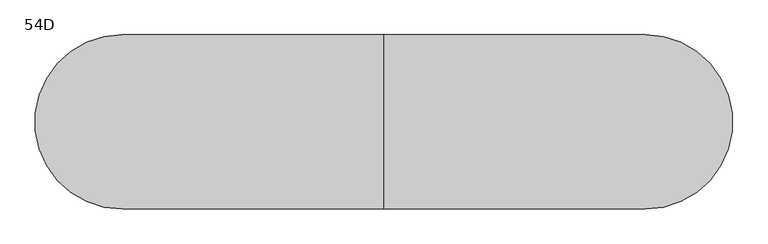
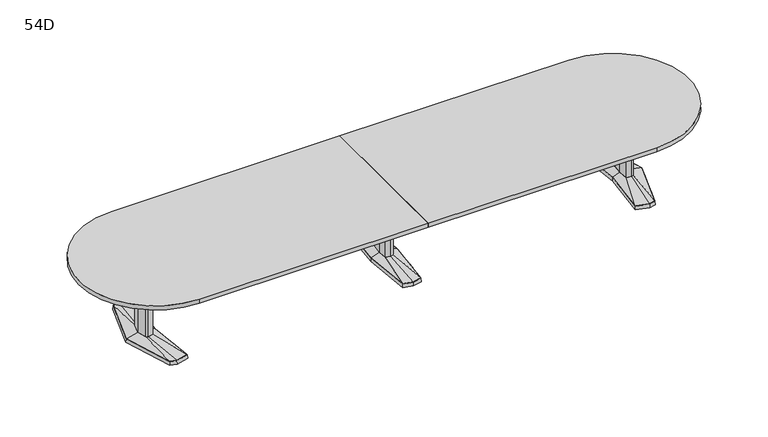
"""IFC4 building model written with IfcOpenShell, lengths in millimetres: furniture geometry, Coalesse_AM_Table_Conference_ETable2_Racetrack_18ft_AluminiumBase : 54D."""

from ifc_helpers import new_model, si_unit, point, frame, frame_2d, origin, place, context, project, spatial, polyline, circle_curve, trimmed, segment, composite_curve, outline, extrude, faceted_brep, source, transform, mapped, element, save
from ifc_brep_helpers import plane_surface, spline_surface, advanced_brep


def furniture_54d_7f392c79(model_context):
    return source(origin(), model_context, "Body", "SolidModel", [
        faceted_brep([(-81.2333791, -433.8053819, 38.1), (0.0, -455.556576, 38.1), (81.2333791, -433.8053819, 38.1), (119.0564774, 0.0, 38.1), (81.2333791, 433.8053819, 38.1), (0.0, 455.556576, 38.1), (-81.2333791, 433.8053819, 38.1), (-119.0564774, 0.0, 38.1), (-82.7182795, -435.0512063, 3.175), (-120.65, 0.0, 3.175), (-82.7182795, 435.0512063, 3.175), (0.0, 457.2, 3.175), (82.7182795, 435.0512063, 3.175), (120.65, 0.0, 3.175), (82.7182795, -435.0512063, 3.175), (0.0, -457.2, 3.175), (0.0, 429.2617927, 3.175), (-77.9676806, 408.3850278, 3.175), (-74.7019821, 382.9646737, 3.175), (0.0, 402.9670094, 3.175), (74.7019821, 382.9646737, 3.175), (77.9676806, 408.3850278, 3.175), (0.0, -429.2617927, 3.175), (77.9676806, -408.3850278, 3.175), (74.7019821, -382.9646737, 3.175), (0.0, -402.9670094, 3.175), (-74.7019821, -382.9646737, 3.175), (-77.9676806, -408.3850278, 3.175), (-71.8574262, 114.6326257, 3.175), (-82.5426076, 0.0, 3.175), (-71.8574262, -114.6326257, 3.175), (0.0, -133.8761372, 3.175), (71.8574262, -114.6326257, 3.175), (82.5426076, 0.0, 3.175), (71.8574262, 114.6326257, 3.175), (0.0, 133.8761372, 3.175), (0.0, 429.2617927, 0.0), (77.9676806, 408.3850278, 0.0), (74.7019821, 382.9646737, 0.0), (0.0, 402.9670094, 0.0), (-74.7019821, 382.9646737, 0.0), (-77.9676806, 408.3850278, 0.0), (0.0, -429.2617927, 0.0), (-77.9676806, -408.3850278, 0.0), (-74.7019821, -382.9646737, 0.0), (0.0, -402.9670094, 0.0), (74.7019821, -382.9646737, 0.0), (77.9676806, -408.3850278, 0.0), (-71.8574262, 114.6326257, 0.0), (0.0, 133.8761372, 0.0), (71.8574262, 114.6326257, 0.0), (82.5426076, 0.0, 0.0), (71.8574262, -114.6326257, 0.0), (0.0, -133.8761372, 0.0), (-71.8574262, -114.6326257, 0.0), (-82.5426076, 0.0, 0.0)], [[[0, 1, 2, 3, 4, 5, 6, 7]], [[8, 9, 10, 11, 12, 13, 14, 15], [16, 17, 18, 19, 20, 21], [22, 23, 24, 25, 26, 27], [28, 29, 30, 31, 32, 33, 34, 35]], [[1, 0, 8, 15]], [[2, 1, 15, 14]], [[3, 2, 14, 13]], [[4, 3, 13, 12]], [[5, 4, 12, 11]], [[6, 5, 11, 10]], [[7, 6, 10, 9]], [[0, 7, 9, 8]], [[36, 37, 38, 39, 40, 41]], [[42, 43, 44, 45, 46, 47]], [[48, 49, 50, 51, 52, 53, 54, 55]], [[36, 41, 17, 16]], [[41, 40, 18, 17]], [[40, 39, 19, 18]], [[39, 38, 20, 19]], [[38, 37, 21, 20]], [[37, 36, 16, 21]], [[42, 47, 23, 22]], [[47, 46, 24, 23]], [[46, 45, 25, 24]], [[45, 44, 26, 25]], [[44, 43, 27, 26]], [[43, 42, 22, 27]], [[48, 55, 29, 28]], [[55, 54, 30, 29]], [[54, 53, 31, 30]], [[53, 52, 32, 31]], [[52, 51, 33, 32]], [[51, 50, 34, 33]], [[50, 49, 35, 34]], [[49, 48, 28, 35]]]),
        faceted_brep([(-36.3832834, 84.6900825, 698.5), (-44.2774487, 0.0, 698.5), (-36.3832834, -84.6900825, 698.5), (0.0, -94.4335728, 698.5), (36.3832834, -84.6900825, 698.5), (44.2774487, 0.0, 698.5), (36.3832834, 84.6900825, 698.5), (0.0, 94.4335728, 698.5), (-36.3832834, 84.6900825, 63.5), (0.0, 94.4335728, 63.5), (36.3832834, 84.6900825, 63.5), (44.2774487, 0.0, 63.5), (36.3832834, -84.6900825, 63.5), (0.0, -94.4335728, 63.5), (-36.3832834, -84.6900825, 63.5), (-44.2774487, 0.0, 63.5)], [[[0, 1, 2, 3, 4, 5, 6, 7]], [[8, 9, 10, 11, 12, 13, 14, 15]], [[1, 0, 8, 15]], [[2, 1, 15, 14]], [[3, 2, 14, 13]], [[4, 3, 13, 12]], [[5, 4, 12, 11]], [[6, 5, 11, 10]], [[7, 6, 10, 9]], [[0, 7, 9, 8]]]),
        advanced_brep(
        [(-36.3832834, 84.6900825, 63.5), (-44.2774487, 0.0, 63.5), (-36.3832834, -84.6900825, 63.5), (0.0, -94.4335728, 63.5), (36.3832834, -84.6900825, 63.5), (44.2774487, 0.0, 63.5), (36.3832834, 84.6900825, 63.5), (0.0, 94.4335728, 63.5), (-81.2333791, 433.8053819, 38.1), (0.0, 455.556576, 38.1), (81.2333791, 433.8053819, 38.1), (119.0564774, 0.0, 38.1), (81.2333791, -433.8053819, 38.1), (0.0, -455.556576, 38.1), (-81.2333791, -433.8053819, 38.1), (-119.0564774, 0.0, 38.1)],
        [
            (0, 1),
            (1, 2),
            (2, 3),
            (3, 4),
            (4, 5),
            (5, 6),
            (6, 7),
            (7, 0),
            (8, 9),
            (9, 10),
            (10, 11),
            (11, 12),
            (12, 13),
            (13, 14),
            (14, 15),
            (15, 8),
            (15, 1),
            (0, 8),
            (14, 2),
            (13, 3),
            (12, 4),
            (11, 5),
            (10, 6),
            (9, 7),
        ],
        [
            plane_surface(frame((0.0, 0.0, 63.5), z_axis=(0.0, 0.0, 1.0000000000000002), x_axis=(-0.9659615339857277, -0.25868574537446, 0.0))),
            plane_surface(frame((0.0, 0.0, 38.1), z_axis=(0.0, 0.0, -1.0000000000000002), x_axis=(-0.9659615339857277, -0.25868574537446, 0.0))),
            spline_surface(1, 1, [[(-81.2333791, 433.8053819, 38.1), (-36.3832834, 84.6900825, 63.5)], [(-119.0564774, 0.0, 38.1), (-44.2774487, 0.0, 63.5)]], [2, 2], [2, 2], [0.0, 1.0], [0.0, 1.0]),
            spline_surface(1, 1, [[(-119.0564774, 0.0, 38.1), (-44.2774487, 0.0, 63.5)], [(-81.2333791, -433.8053819, 38.1), (-36.3832834, -84.6900825, 63.5)]], [2, 2], [2, 2], [0.0, 1.0], [0.0, 1.0]),
            spline_surface(1, 1, [[(-81.2333791, -433.8053819, 38.1), (-36.3832834, -84.6900825, 63.5)], [(0.0, -455.556576, 38.1), (0.0, -94.4335728, 63.5)]], [2, 2], [2, 2], [0.0, 1.0], [0.0, 1.0]),
            spline_surface(1, 1, [[(0.0, -455.556576, 38.1), (0.0, -94.4335728, 63.5)], [(81.2333791, -433.8053819, 38.1), (36.3832834, -84.6900825, 63.5)]], [2, 2], [2, 2], [0.0, 1.0], [0.0, 1.0]),
            spline_surface(1, 1, [[(81.2333791, -433.8053819, 38.1), (36.3832834, -84.6900825, 63.5)], [(119.0564774, 0.0, 38.1), (44.2774487, 0.0, 63.5)]], [2, 2], [2, 2], [0.0, 1.0], [0.0, 1.0]),
            spline_surface(1, 1, [[(119.0564774, 0.0, 38.1), (44.2774487, 0.0, 63.5)], [(81.2333791, 433.8053819, 38.1), (36.3832834, 84.6900825, 63.5)]], [2, 2], [2, 2], [0.0, 1.0], [0.0, 1.0]),
            spline_surface(1, 1, [[(81.2333791, 433.8053819, 38.1), (36.3832834, 84.6900825, 63.5)], [(0.0, 455.556576, 38.1), (0.0, 94.4335728, 63.5)]], [2, 2], [2, 2], [0.0, 1.0], [0.0, 1.0]),
            spline_surface(1, 1, [[(0.0, 455.556576, 38.1), (0.0, 94.4335728, 63.5)], [(-81.2333791, 433.8053819, 38.1), (-36.3832834, 84.6900825, 63.5)]], [2, 2], [2, 2], [0.0, 1.0], [0.0, 1.0]),
        ],
        [
            (0, [[1, 2, 3, 4, 5, 6, 7, 8]]),
            (1, [[9, 10, 11, 12, 13, 14, 15, 16]]),
            (2, [[-16, 17, -1, 18]]),
            (3, [[-15, 19, -2, -17]]),
            (4, [[-14, 20, -3, -19]]),
            (5, [[-13, 21, -4, -20]]),
            (6, [[-12, 22, -5, -21]]),
            (7, [[-11, 23, -6, -22]]),
            (8, [[-10, 24, -7, -23]]),
            (9, [[-9, -18, -8, -24]]),
        ],
    ),
        faceted_brep([(2125.0306835, 455.5848221, 38.1), (2015.4531277, 426.2263816, 38.1), (2056.6163717, 0.0, 38.1), (2015.4531277, -426.2263816, 38.1), (2125.0306835, -455.5848221, 38.1), (2181.1570396, -440.5478297, 38.1), (2318.4684269, 0.0, 38.1), (2181.1570396, 440.5478297, 38.1), (2125.0306754, 457.2283104, 3.175), (2182.4124472, 441.8549756, 3.175), (2320.13125, 0.0, 3.175), (2182.4124472, -441.8549756, 3.175), (2125.0306754, -457.2283104, 3.175), (2013.74375, -427.4118891, 3.175), (2055.0214856, 0.0, 3.175), (2013.74375, 427.4118891, 3.175), (2128.620115, 428.3273875, 3.175), (2023.5718228, 402.1057253, 3.175), (2031.690518, 377.985069, 3.175), (2132.2095466, 401.0699529, 3.175), (2182.7691725, 387.524361, 3.175), (2181.9631061, 414.0360954, 3.175), (2128.620115, -428.3273875, 3.175), (2181.9631061, -414.0360954, 3.175), (2182.7691725, -387.524361, 3.175), (2132.2095466, -401.0699529, 3.175), (2031.690518, -377.985069, 3.175), (2023.5718228, -402.1057253, 3.175), (2255.2153621, 0.0, 3.175), (2222.9459611, 120.4193755, 3.175), (2174.2987222, 133.471665, 3.175), (2094.4180526, 119.4176561, 3.175), (2083.2868466, 0.0, 3.175), (2094.4180526, -119.4176561, 3.175), (2174.2987222, -133.471665, 3.175), (2222.9459611, -120.4193755, 3.175), (2128.620115, 428.3273875, 0.0), (2181.9631061, 414.0360954, 0.0), (2182.7691725, 387.524361, 0.0), (2132.2095466, 401.0699529, 0.0), (2031.690518, 377.985069, 0.0), (2023.5718228, 402.1057253, 0.0), (2128.620115, -428.3273875, 0.0), (2023.5718228, -402.1057253, 0.0), (2031.690518, -377.985069, 0.0), (2132.2095466, -401.0699529, 0.0), (2182.7691725, -387.524361, 0.0), (2181.9631061, -414.0360954, 0.0), (2255.2153621, 0.0, 0.0), (2222.9459611, -120.4193755, 0.0), (2174.2987222, -133.471665, 0.0), (2094.4180526, -119.4176561, 0.0), (2083.2868466, 0.0, 0.0), (2094.4180526, 119.4176561, 0.0), (2174.2987222, 133.471665, 0.0), (2222.9459611, 120.4193755, 0.0)], [[[0, 1, 2, 3, 4, 5, 6, 7]], [[8, 9, 10, 11, 12, 13, 14, 15], [16, 17, 18, 19, 20, 21], [22, 23, 24, 25, 26, 27], [28, 29, 30, 31, 32, 33, 34, 35]], [[7, 9, 8, 0]], [[6, 10, 9, 7]], [[5, 11, 10, 6]], [[4, 12, 11, 5]], [[3, 13, 12, 4]], [[2, 14, 13, 3]], [[1, 15, 14, 2]], [[0, 8, 15, 1]], [[36, 37, 38, 39, 40, 41]], [[42, 43, 44, 45, 46, 47]], [[48, 49, 50, 51, 52, 53, 54, 55]], [[36, 16, 21, 37]], [[37, 21, 20, 38]], [[38, 20, 19, 39]], [[39, 19, 18, 40]], [[40, 18, 17, 41]], [[41, 17, 16, 36]], [[42, 22, 27, 43]], [[43, 27, 26, 44]], [[44, 26, 25, 45]], [[45, 25, 24, 46]], [[46, 24, 23, 47]], [[47, 23, 22, 42]], [[48, 28, 35, 49]], [[49, 35, 34, 50]], [[50, 34, 33, 51]], [[51, 33, 32, 52]], [[52, 32, 31, 53]], [[53, 31, 30, 54]], [[54, 30, 29, 55]], [[55, 29, 28, 48]]]),
        faceted_brep([(2215.7710836, 0.0, 698.5), (2191.8358546, 89.3188359, 698.5), (2174.9824984, 93.8406728, 698.5), (2172.5826511, 94.4845635, 698.5), (2129.655146, 86.9320037, 698.5), (2121.5520056, 0.0, 698.5), (2129.655146, -86.9320037, 698.5), (2172.5826511, -94.4845635, 698.5), (2174.9824984, -93.8406728, 698.5), (2191.8358546, -89.3188359, 698.5), (2215.7710836, 0.0, 63.5), (2191.8358546, -89.3188359, 63.5), (2174.9824984, -93.8406728, 63.5), (2172.5826511, -94.4845635, 63.5), (2129.655146, -86.9320037, 63.5), (2121.5520056, 0.0, 63.5), (2129.655146, 86.9320037, 63.5), (2172.5826511, 94.4845635, 63.5), (2174.9824984, 93.8406728, 63.5), (2191.8358546, 89.3188359, 63.5)], [[[0, 1, 2, 3, 4, 5, 6, 7, 8, 9]], [[10, 11, 12, 13, 14, 15, 16, 17, 18, 19]], [[9, 11, 10, 0]], [[8, 12, 11, 9]], [[7, 13, 12, 8]], [[6, 14, 13, 7]], [[5, 15, 14, 6]], [[4, 16, 15, 5]], [[3, 17, 16, 4]], [[2, 18, 17, 3]], [[1, 19, 18, 2]], [[0, 10, 19, 1]]]),
        advanced_brep(
        [(2172.5826511, 94.4845635, 63.5), (2129.655146, 86.9320037, 63.5), (2121.5520056, 0.0, 63.5), (2129.655146, -86.9320037, 63.5), (2172.5826511, -94.4845635, 63.5), (2191.8358546, -89.3188359, 63.5), (2215.7710836, 0.0, 63.5), (2191.8358546, 89.3188359, 63.5), (2125.0306835, 455.5848221, 38.1), (2181.1570396, 440.5478297, 38.1), (2318.4684269, 0.0, 38.1), (2181.1570396, -440.5478297, 38.1), (2125.0306835, -455.5848221, 38.1), (2015.4531277, -426.2263816, 38.1), (2056.6163717, 0.0, 38.1), (2015.4531277, 426.2263816, 38.1)],
        [
            (0, 1),
            (1, 2),
            (2, 3),
            (3, 4),
            (4, 5),
            (5, 6),
            (6, 7),
            (7, 0),
            (8, 9),
            (9, 10),
            (10, 11),
            (11, 12),
            (12, 13),
            (13, 14),
            (14, 15),
            (15, 8),
            (8, 0),
            (7, 9),
            (6, 10),
            (5, 11),
            (4, 12),
            (3, 13),
            (2, 14),
            (1, 15),
        ],
        [
            plane_surface(frame((2165.6837991, 0.0, 63.5), z_axis=(0.0, 0.0, 1.0), x_axis=(-0.25884244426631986, -0.9659195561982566, 0.0))),
            plane_surface(frame((2127.2958125, 0.0, 38.1), z_axis=(0.0, 0.0, -1.0), x_axis=(-0.25884244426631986, -0.9659195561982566, 0.0))),
            spline_surface(1, 1, [[(2125.0306835, 455.5848221, 38.1), (2181.1570396, 440.5478297, 38.1)], [(2172.5826511, 94.4845635, 63.5), (2191.8358546, 89.3188359, 63.5)]], [2, 2], [2, 2], [0.0, 1.0], [0.0, 1.0]),
            spline_surface(1, 1, [[(2181.1570396, 440.5478297, 38.1), (2318.4684269, 0.0, 38.1)], [(2191.8358546, 89.3188359, 63.5), (2215.7710836, 0.0, 63.5)]], [2, 2], [2, 2], [0.0, 1.0], [0.0, 1.0]),
            spline_surface(1, 1, [[(2318.4684269, 0.0, 38.1), (2181.1570396, -440.5478297, 38.1)], [(2215.7710836, 0.0, 63.5), (2191.8358546, -89.3188359, 63.5)]], [2, 2], [2, 2], [0.0, 1.0], [0.0, 1.0]),
            spline_surface(1, 1, [[(2181.1570396, -440.5478297, 38.1), (2125.0306835, -455.5848221, 38.1)], [(2191.8358546, -89.3188359, 63.5), (2172.5826511, -94.4845635, 63.5)]], [2, 2], [2, 2], [0.0, 1.0], [0.0, 1.0]),
            spline_surface(1, 1, [[(2125.0306835, -455.5848221, 38.1), (2015.4531277, -426.2263816, 38.1)], [(2172.5826511, -94.4845635, 63.5), (2129.655146, -86.9320037, 63.5)]], [2, 2], [2, 2], [0.0, 1.0], [0.0, 1.0]),
            spline_surface(1, 1, [[(2015.4531277, -426.2263816, 38.1), (2056.6163717, 0.0, 38.1)], [(2129.655146, -86.9320037, 63.5), (2121.5520056, 0.0, 63.5)]], [2, 2], [2, 2], [0.0, 1.0], [0.0, 1.0]),
            spline_surface(1, 1, [[(2056.6163717, 0.0, 38.1), (2015.4531277, 426.2263816, 38.1)], [(2121.5520056, 0.0, 63.5), (2129.655146, 86.9320037, 63.5)]], [2, 2], [2, 2], [0.0, 1.0], [0.0, 1.0]),
            spline_surface(1, 1, [[(2015.4531277, 426.2263816, 38.1), (2125.0306835, 455.5848221, 38.1)], [(2129.655146, 86.9320037, 63.5), (2172.5826511, 94.4845635, 63.5)]], [2, 2], [2, 2], [0.0, 1.0], [0.0, 1.0]),
        ],
        [
            (0, [[1, 2, 3, 4, 5, 6, 7, 8]]),
            (1, [[9, 10, 11, 12, 13, 14, 15, 16]]),
            (2, [[17, -8, 18, -9]]),
            (3, [[-18, -7, 19, -10]]),
            (4, [[-19, -6, 20, -11]]),
            (5, [[-20, -5, 21, -12]]),
            (6, [[-21, -4, 22, -13]]),
            (7, [[-22, -3, 23, -14]]),
            (8, [[-23, -2, 24, -15]]),
            (9, [[-24, -1, -17, -16]]),
        ],
    ),
        faceted_brep([(-2125.0306835, 455.5848221, 38.1), (-2181.1570396, 440.5478297, 38.1), (-2318.4684269, 0.0, 38.1), (-2181.1570396, -440.5478297, 38.1), (-2125.0306835, -455.5848221, 38.1), (-2015.4531277, -426.2263816, 38.1), (-2056.6163717, 0.0, 38.1), (-2015.4531277, 426.2263816, 38.1), (-2125.0306754, 457.2283104, 3.175), (-2013.74375, 427.4118891, 3.175), (-2055.0214856, 0.0, 3.175), (-2013.74375, -427.4118891, 3.175), (-2125.0306754, -457.2283104, 3.175), (-2182.4124472, -441.8549756, 3.175), (-2320.13125, 0.0, 3.175), (-2182.4124472, 441.8549756, 3.175), (-2128.620115, 428.3273875, 3.175), (-2181.9631061, 414.0360954, 3.175), (-2182.7691725, 387.524361, 3.175), (-2132.2095466, 401.0699529, 3.175), (-2031.690518, 377.985069, 3.175), (-2023.5718228, 402.1057253, 3.175), (-2128.620115, -428.3273875, 3.175), (-2023.5718228, -402.1057253, 3.175), (-2031.690518, -377.985069, 3.175), (-2132.2095466, -401.0699529, 3.175), (-2182.7691725, -387.524361, 3.175), (-2181.9631061, -414.0360954, 3.175), (-2255.2153621, 0.0, 3.175), (-2222.9459611, -120.4193755, 3.175), (-2174.2987222, -133.471665, 3.175), (-2094.4180526, -119.4176561, 3.175), (-2083.2868466, 0.0, 3.175), (-2094.4180526, 119.4176561, 3.175), (-2174.2987222, 133.471665, 3.175), (-2222.9459611, 120.4193755, 3.175), (-2128.620115, 428.3273875, 0.0), (-2023.5718228, 402.1057253, 0.0), (-2031.690518, 377.985069, 0.0), (-2132.2095466, 401.0699529, 0.0), (-2182.7691725, 387.524361, 0.0), (-2181.9631061, 414.0360954, 0.0), (-2128.620115, -428.3273875, 0.0), (-2181.9631061, -414.0360954, 0.0), (-2182.7691725, -387.524361, 0.0), (-2132.2095466, -401.0699529, 0.0), (-2031.690518, -377.985069, 0.0), (-2023.5718228, -402.1057253, 0.0), (-2255.2153621, 0.0, 0.0), (-2222.9459611, 120.4193755, 0.0), (-2174.2987222, 133.471665, 0.0), (-2094.4180526, 119.4176561, 0.0), (-2083.2868466, 0.0, 0.0), (-2094.4180526, -119.4176561, 0.0), (-2174.2987222, -133.471665, 0.0), (-2222.9459611, -120.4193755, 0.0)], [[[0, 1, 2, 3, 4, 5, 6, 7]], [[8, 9, 10, 11, 12, 13, 14, 15], [16, 17, 18, 19, 20, 21], [22, 23, 24, 25, 26, 27], [28, 29, 30, 31, 32, 33, 34, 35]], [[1, 0, 8, 15]], [[2, 1, 15, 14]], [[3, 2, 14, 13]], [[4, 3, 13, 12]], [[5, 4, 12, 11]], [[6, 5, 11, 10]], [[7, 6, 10, 9]], [[0, 7, 9, 8]], [[36, 37, 38, 39, 40, 41]], [[42, 43, 44, 45, 46, 47]], [[48, 49, 50, 51, 52, 53, 54, 55]], [[36, 41, 17, 16]], [[41, 40, 18, 17]], [[40, 39, 19, 18]], [[39, 38, 20, 19]], [[38, 37, 21, 20]], [[37, 36, 16, 21]], [[42, 47, 23, 22]], [[47, 46, 24, 23]], [[46, 45, 25, 24]], [[45, 44, 26, 25]], [[44, 43, 27, 26]], [[43, 42, 22, 27]], [[48, 55, 29, 28]], [[55, 54, 30, 29]], [[54, 53, 31, 30]], [[53, 52, 32, 31]], [[52, 51, 33, 32]], [[51, 50, 34, 33]], [[50, 49, 35, 34]], [[49, 48, 28, 35]]]),
        faceted_brep([(-2215.7710836, 0.0, 698.5), (-2191.8358546, -89.3188359, 698.5), (-2174.9824984, -93.8406728, 698.5), (-2172.5826511, -94.4845635, 698.5), (-2129.655146, -86.9320037, 698.5), (-2121.5520056, 0.0, 698.5), (-2129.655146, 86.9320037, 698.5), (-2172.5826511, 94.4845635, 698.5), (-2174.9824984, 93.8406728, 698.5), (-2191.8358546, 89.3188359, 698.5), (-2215.7710836, 0.0, 63.5), (-2191.8358546, 89.3188359, 63.5), (-2174.9824984, 93.8406728, 63.5), (-2172.5826511, 94.4845635, 63.5), (-2129.655146, 86.9320037, 63.5), (-2121.5520056, 0.0, 63.5), (-2129.655146, -86.9320037, 63.5), (-2172.5826511, -94.4845635, 63.5), (-2174.9824984, -93.8406728, 63.5), (-2191.8358546, -89.3188359, 63.5)], [[[0, 1, 2, 3, 4, 5, 6, 7, 8, 9]], [[10, 11, 12, 13, 14, 15, 16, 17, 18, 19]], [[1, 0, 10, 19]], [[2, 1, 19, 18]], [[3, 2, 18, 17]], [[4, 3, 17, 16]], [[5, 4, 16, 15]], [[6, 5, 15, 14]], [[7, 6, 14, 13]], [[8, 7, 13, 12]], [[9, 8, 12, 11]], [[0, 9, 11, 10]]]),
        advanced_brep(
        [(-2172.5826511, 94.4845635, 63.5), (-2191.8358546, 89.3188359, 63.5), (-2215.7710836, 0.0, 63.5), (-2191.8358546, -89.3188359, 63.5), (-2172.5826511, -94.4845635, 63.5), (-2129.655146, -86.9320037, 63.5), (-2121.5520056, 0.0, 63.5), (-2129.655146, 86.9320037, 63.5), (-2125.0306835, 455.5848221, 38.1), (-2015.4531277, 426.2263816, 38.1), (-2056.6163717, 0.0, 38.1), (-2015.4531277, -426.2263816, 38.1), (-2125.0306835, -455.5848221, 38.1), (-2181.1570396, -440.5478297, 38.1), (-2318.4684269, 0.0, 38.1), (-2181.1570396, 440.5478297, 38.1)],
        [
            (0, 1),
            (1, 2),
            (2, 3),
            (3, 4),
            (4, 5),
            (5, 6),
            (6, 7),
            (7, 0),
            (8, 9),
            (9, 10),
            (10, 11),
            (11, 12),
            (12, 13),
            (13, 14),
            (14, 15),
            (15, 8),
            (15, 1),
            (0, 8),
            (14, 2),
            (13, 3),
            (12, 4),
            (11, 5),
            (10, 6),
            (9, 7),
        ],
        [
            plane_surface(frame((-2165.6837991, 0.0, 63.5), z_axis=(0.0, 0.0, 1.0), x_axis=(0.25884244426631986, -0.9659195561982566, 0.0))),
            plane_surface(frame((-2127.2958125, 0.0, 38.1), z_axis=(0.0, 0.0, -1.0), x_axis=(0.25884244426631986, -0.9659195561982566, 0.0))),
            spline_surface(1, 1, [[(-2125.0306835, 455.5848221, 38.1), (-2172.5826511, 94.4845635, 63.5)], [(-2181.1570396, 440.5478297, 38.1), (-2191.8358546, 89.3188359, 63.5)]], [2, 2], [2, 2], [0.0, 1.0], [0.0, 1.0]),
            spline_surface(1, 1, [[(-2181.1570396, 440.5478297, 38.1), (-2191.8358546, 89.3188359, 63.5)], [(-2318.4684269, 0.0, 38.1), (-2215.7710836, 0.0, 63.5)]], [2, 2], [2, 2], [0.0, 1.0], [0.0, 1.0]),
            spline_surface(1, 1, [[(-2318.4684269, 0.0, 38.1), (-2215.7710836, 0.0, 63.5)], [(-2181.1570396, -440.5478297, 38.1), (-2191.8358546, -89.3188359, 63.5)]], [2, 2], [2, 2], [0.0, 1.0], [0.0, 1.0]),
            spline_surface(1, 1, [[(-2181.1570396, -440.5478297, 38.1), (-2191.8358546, -89.3188359, 63.5)], [(-2125.0306835, -455.5848221, 38.1), (-2172.5826511, -94.4845635, 63.5)]], [2, 2], [2, 2], [0.0, 1.0], [0.0, 1.0]),
            spline_surface(1, 1, [[(-2125.0306835, -455.5848221, 38.1), (-2172.5826511, -94.4845635, 63.5)], [(-2015.4531277, -426.2263816, 38.1), (-2129.655146, -86.9320037, 63.5)]], [2, 2], [2, 2], [0.0, 1.0], [0.0, 1.0]),
            spline_surface(1, 1, [[(-2015.4531277, -426.2263816, 38.1), (-2129.655146, -86.9320037, 63.5)], [(-2056.6163717, 0.0, 38.1), (-2121.5520056, 0.0, 63.5)]], [2, 2], [2, 2], [0.0, 1.0], [0.0, 1.0]),
            spline_surface(1, 1, [[(-2056.6163717, 0.0, 38.1), (-2121.5520056, 0.0, 63.5)], [(-2015.4531277, 426.2263816, 38.1), (-2129.655146, 86.9320037, 63.5)]], [2, 2], [2, 2], [0.0, 1.0], [0.0, 1.0]),
            spline_surface(1, 1, [[(-2015.4531277, 426.2263816, 38.1), (-2129.655146, 86.9320037, 63.5)], [(-2125.0306835, 455.5848221, 38.1), (-2172.5826511, 94.4845635, 63.5)]], [2, 2], [2, 2], [0.0, 1.0], [0.0, 1.0]),
        ],
        [
            (0, [[1, 2, 3, 4, 5, 6, 7, 8]]),
            (1, [[9, 10, 11, 12, 13, 14, 15, 16]]),
            (2, [[-16, 17, -1, 18]]),
            (3, [[-15, 19, -2, -17]]),
            (4, [[-14, 20, -3, -19]]),
            (5, [[-13, 21, -4, -20]]),
            (6, [[-12, 22, -5, -21]]),
            (7, [[-11, 23, -6, -22]]),
            (8, [[-10, 24, -7, -23]]),
            (9, [[-9, -18, -8, -24]]),
        ],
    ),
        extrude(outline(polyline([(96.8375, 698.5), (103.1875, 698.5), (103.1875, 476.25), (-103.1875, 476.25), (-103.1875, 698.5), (-96.8375, 698.5), (-96.8375, 482.6), (96.8375, 482.6), (96.8375, 698.5)])), frame((44.2774487, 0.0, 0.0), z_axis=(1.0, 0.0, 0.0), x_axis=(0.0, 1.0, 0.0)), (0.0, 0.0, 1.0), 2077.4163013),
        extrude(outline(composite_curve([segment(trimmed(circle_curve(frame_2d((2057.4, 0.0)), 685.8), [point((2057.4, 685.8))], [point((2057.4, -685.8))], False, "CARTESIAN"), True, "CONTINUOUS"), segment(polyline([(2057.4, -685.8), (0.0, -685.8), (0.0, 685.8), (2057.4, 685.8)]), True, "CONTINUOUS")], self_intersect=False)), frame((0.0, 0.0, 698.5), z_axis=(0.0, 0.0, 1.0), x_axis=(1.0, 0.0, 0.0)), (0.0, 0.0, 1.0), 38.1),
        extrude(outline(composite_curve([segment(polyline([(0.0, 685.8), (0.0, -685.8), (-2057.4, -685.8)]), True, "CONTINUOUS"), segment(trimmed(circle_curve(frame_2d((-2057.4, 0.0)), 685.8), [point((-2057.4, -685.8))], [point((-2057.4, 685.8))], False, "CARTESIAN"), True, "CONTINUOUS"), segment(polyline([(-2057.4, 685.8), (0.0, 685.8)]), True, "CONTINUOUS")], self_intersect=False)), frame((0.0, 0.0, 698.5), z_axis=(0.0, 0.0, 1.0), x_axis=(1.0, 0.0, 0.0)), (0.0, 0.0, 1.0), 38.1),
        extrude(outline(polyline([(96.8375, 698.5), (103.1875, 698.5), (103.1875, 476.25), (-103.1875, 476.25), (-103.1875, 698.5), (-96.8375, 698.5), (-96.8375, 482.6), (96.8375, 482.6), (96.8375, 698.5)])), frame((-2121.69375, 0.0, 0.0), z_axis=(1.0, 0.0, 0.0), x_axis=(0.0, 1.0, 0.0)), (0.0, 0.0, 1.0), 2077.4163013),
    ])


if __name__ == "__main__":
    model = new_model("IFC4")
    model_context = context("Model", 3, world=origin())
    ifc_project = project(units=[si_unit("LENGTHUNIT", "METRE", prefix="MILLI")], contexts=[model_context])
    site = spatial("IfcSite", under=ifc_project)
    building = spatial("IfcBuilding", under=site)
    placement = place(None, origin())
    furniture_54d_shape = furniture_54d_7f392c79(model_context)
    element("IfcFurniture", 1, ObjectType="Coalesse_AM_Table_Conference_ETable2_Racetrack_18ft_AluminiumBase : 54D", at=placement, inside=building, context=model_context, shape_type="MappedRepresentation", body=[
        mapped(furniture_54d_shape, transform((0.0, 0.0, 0.0), x_axis=(1.0, 0.0, 0.0), y_axis=(0.0, 1.0, 0.0), z_axis=(0.0, 0.0, 1.0))),
    ])
    save(model, "model.ifc")
